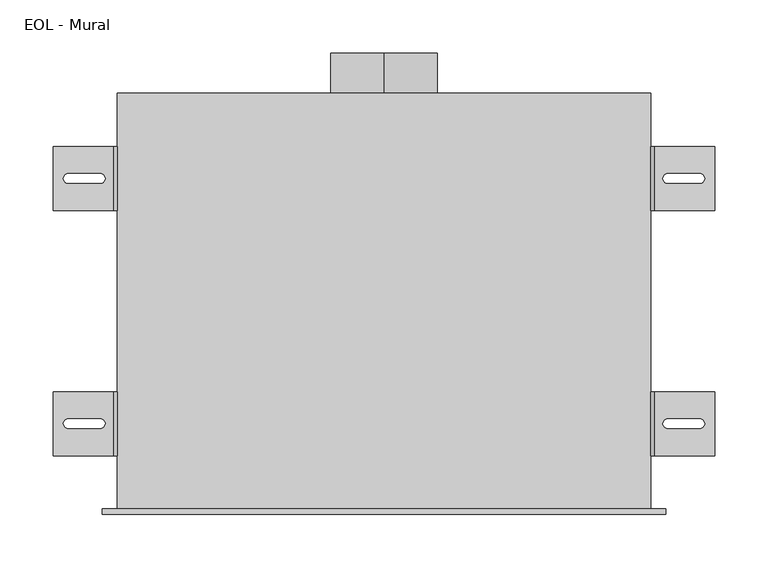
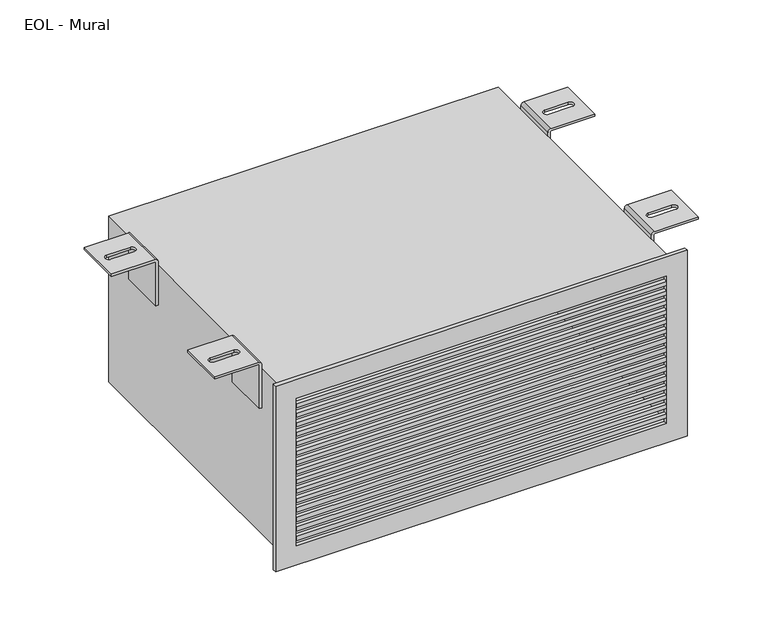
"""IFC4 building model written with IfcOpenShell, lengths in millimetres: air terminal geometry, EOL - Mural : EOL-M100-500x225-2."""

from ifc_helpers import new_model, si_unit, point, frame, origin, origin_2d, place, context, project, spatial, polyline, circle_curve, ellipse_curve, trimmed, segment, composite_curve, outline, extrude, source, transform, mapped, element, save
from ifc_brep_helpers import plane_surface, cylinder_surface, revolved_surface, extruded_surface, advanced_brep


def eol_mural_c0a6acfa(model_context):
    return source(origin(), model_context, "Body", "SolidModel", [
        advanced_brep(
        [(254.0013366, 110.0, 121.5), (310.0, 110.0, 121.5), (310.0, 110.0, 118.5), (254.0, 110.0, 118.5), (253.0, 110.0, 117.5), (253.0, 110.0, 58.5), (250.0, 110.0, 58.5), (250.0, 110.0, 117.4986634), (254.0013366, 50.0, 121.5), (250.0, 50.0, 117.4986634), (250.0, 50.0, 58.5), (253.0, 50.0, 58.5), (253.0, 50.0, 117.5), (254.0, 50.0, 118.5), (310.0, 50.0, 118.5), (310.0, 50.0, 121.5), (296.0287952, 75.4804328, 121.5), (266.0287952, 75.4804328, 121.5), (266.0287952, 84.4804328, 121.5), (296.0287952, 84.4804328, 121.5), (266.0287952, 75.4804328, 118.5), (296.0287952, 75.4804328, 118.5), (296.0287952, 84.4804328, 118.5), (266.0287952, 84.4804328, 118.5)],
        [
            (0, 1),
            (1, 2),
            (2, 3),
            (3, 4, circle_curve(frame((254.0, 110.0, 117.5), z_axis=(0.0, -1.0, 0.0), x_axis=(-1.0000000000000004, 0.0, 0.0)), 1.0)),
            (4, 5),
            (5, 6),
            (6, 7),
            (7, 0, circle_curve(frame((254.0013366, 110.0, 117.4986634), z_axis=(0.0, 1.0, 0.0), x_axis=(-1.0000000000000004, 0.0, 0.0)), 4.0013366)),
            (8, 9, circle_curve(frame((254.0013366, 50.0, 117.4986634), z_axis=(0.0, -1.0, 0.0), x_axis=(-1.0000000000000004, 0.0, 0.0)), 4.0013366)),
            (9, 10),
            (10, 11),
            (11, 12),
            (12, 13, circle_curve(frame((254.0, 50.0, 117.5), z_axis=(0.0, 1.0, 0.0), x_axis=(-1.0000000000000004, 0.0, 0.0)), 1.0)),
            (13, 14),
            (14, 15),
            (15, 8),
            (0, 8),
            (15, 1),
            (16, 17),
            (17, 18, circle_curve(frame((266.0287952, 79.9804328, 121.5), z_axis=(0.0, 0.0, -1.0), x_axis=(0.0, -1.0, 0.0)), 4.5)),
            (18, 19),
            (19, 16, circle_curve(frame((296.0287952, 79.9804328, 121.5), z_axis=(0.0, 0.0, -1.0), x_axis=(0.0, -1.0, 0.0)), 4.5)),
            (14, 2),
            (13, 3),
            (20, 21),
            (21, 22, ellipse_curve(frame((296.0287952, 79.9804328, 118.5), z_axis=(0.0, 0.0, 1.0), x_axis=(0.0, -1.0, 0.0)), 4.5, 4.5)),
            (22, 23),
            (23, 20, ellipse_curve(frame((266.0287952, 79.9804328, 118.5), z_axis=(0.0, 0.0, 1.0), x_axis=(0.0, -1.0, 0.0)), 4.5, 4.5)),
            (12, 4),
            (11, 5),
            (10, 6),
            (9, 7),
            (16, 21),
            (20, 17),
            (19, 22),
            (18, 23),
        ],
        [
            plane_surface(frame((310.0, 110.0, 121.5), z_axis=(0.0, 1.0, 0.0), x_axis=(1.0, 0.0, 0.0))),
            plane_surface(frame((310.0, 50.0, 121.5), z_axis=(0.0, -1.0, 0.0), x_axis=(-1.0, 0.0, 0.0))),
            plane_surface(frame((254.0013366, 110.0, 121.5), z_axis=(0.0, 0.0, 1.0), x_axis=(0.0, -1.0, 0.0))),
            plane_surface(frame((310.0, 110.0, 121.5), z_axis=(1.0, 0.0, 0.0), x_axis=(0.0, -1.0, 0.0))),
            plane_surface(frame((310.0, 110.0, 118.5), z_axis=(0.0, 0.0, -1.0), x_axis=(0.0, -1.0, 0.0))),
            revolved_surface(polyline([(253.0, 50.0, 117.5), (253.0, 110.00000000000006, 117.5)]), (254.0, 50.0, 117.5), (0.0, -1.0000000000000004, 0.0)),
            plane_surface(frame((253.0, 110.0, 117.5), z_axis=(1.0, 0.0, 0.0), x_axis=(0.0, -1.0, 0.0))),
            plane_surface(frame((253.0, 110.0, 58.5), z_axis=(0.0, 0.0, -1.0), x_axis=(0.0, -1.0, 0.0))),
            plane_surface(frame((250.0, 110.0, 58.5), z_axis=(-1.0, 0.0, 0.0), x_axis=(0.0, -1.0, 0.0))),
            cylinder_surface(frame((254.0013366, 50.0, 117.4986634), z_axis=(0.0, 1.0000000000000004, 0.0), x_axis=(-1.0000000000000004, 0.0, 0.0)), 4.0013366),
            plane_surface(frame((266.0287952, 75.4804328, 121.5), z_axis=(0.0, 1.0, 0.0), x_axis=(0.0, 0.0, -1.0))),
            extruded_surface(trimmed(ellipse_curve(frame((296.0287952, 79.9804328, 118.5), z_axis=(0.0, 0.0, 1.0), x_axis=(0.0, -1.0, 0.0)), 4.5, 4.5), [point((296.0287952, 75.4804328, 118.5))], [point((296.0287952, 84.4804328, 118.5))], True, "CARTESIAN"), (0.0, 0.0, -3.0), 3.0),
            plane_surface(frame((296.0287952, 84.4804328, 121.5), z_axis=(0.0, -1.0, 0.0), x_axis=(0.0, 0.0, -1.0))),
            extruded_surface(trimmed(ellipse_curve(frame((266.0287952, 79.9804328, 118.5), z_axis=(0.0, 0.0, 1.0), x_axis=(0.0, -1.0, 0.0)), 4.5, 4.5), [point((266.0287952, 84.4804328, 118.5))], [point((266.0287952, 75.4804328, 118.5))], True, "CARTESIAN"), (0.0, 0.0, -3.0), 3.0),
        ],
        [
            (0, [[1, 2, 3, 4, 5, 6, 7, 8]]),
            (1, [[9, 10, 11, 12, 13, 14, 15, 16]]),
            (2, [[-1, 17, -16, 18], [19, 20, 21, 22]]),
            (3, [[-2, -18, -15, 23]]),
            (4, [[-3, -23, -14, 24], [25, 26, 27, 28]]),
            (5, [[-4, -24, -13, 29]]),
            (6, [[-5, -29, -12, 30]]),
            (7, [[-6, -30, -11, 31]]),
            (8, [[-7, -31, -10, 32]]),
            (9, [[-8, -32, -9, -17]]),
            (10, [[33, -25, 34, -19]]),
            (11, [[-33, -22, 35, -26]]),
            (12, [[-35, -21, 36, -27]]),
            (13, [[-34, -28, -36, -20]]),
        ],
    ),
        advanced_brep(
        [(254.0013366, 340.0, 121.5), (310.0, 340.0, 121.5), (310.0, 340.0, 118.5), (254.0, 340.0, 118.5), (253.0, 340.0, 117.5), (253.0, 340.0, 58.5), (250.0, 340.0, 58.5), (250.0, 340.0, 117.4986634), (254.0013366, 280.0, 121.5), (250.0, 280.0, 117.4986634), (250.0, 280.0, 58.5), (253.0, 280.0, 58.5), (253.0, 280.0, 117.5), (254.0, 280.0, 118.5), (310.0, 280.0, 118.5), (310.0, 280.0, 121.5), (296.0287952, 305.4804328, 121.5), (266.0287952, 305.4804328, 121.5), (266.0287952, 314.4804328, 121.5), (296.0287952, 314.4804328, 121.5), (266.0287952, 305.4804328, 118.5), (296.0287952, 305.4804328, 118.5), (296.0287952, 314.4804328, 118.5), (266.0287952, 314.4804328, 118.5)],
        [
            (0, 1),
            (1, 2),
            (2, 3),
            (3, 4, circle_curve(frame((254.0, 340.0, 117.5), z_axis=(0.0, -1.0, 0.0), x_axis=(-1.0, 0.0, 0.0)), 1.0)),
            (4, 5),
            (5, 6),
            (6, 7),
            (7, 0, circle_curve(frame((254.0013366, 340.0, 117.4986634), z_axis=(0.0, 1.0, 0.0), x_axis=(-1.0, 0.0, 0.0)), 4.0013366)),
            (8, 9, circle_curve(frame((254.0013366, 280.0, 117.4986634), z_axis=(0.0, -1.0, 0.0), x_axis=(-1.0, 0.0, 0.0)), 4.0013366)),
            (9, 10),
            (10, 11),
            (11, 12),
            (12, 13, circle_curve(frame((254.0, 280.0, 117.5), z_axis=(0.0, 1.0, 0.0), x_axis=(-1.0, 0.0, 0.0)), 1.0)),
            (13, 14),
            (14, 15),
            (15, 8),
            (0, 8),
            (15, 1),
            (16, 17),
            (17, 18, circle_curve(frame((266.0287952, 309.9804328, 121.5), z_axis=(0.0, 0.0, -1.0), x_axis=(0.0, -1.0, 0.0)), 4.5)),
            (18, 19),
            (19, 16, circle_curve(frame((296.0287952, 309.9804328, 121.5), z_axis=(0.0, 0.0, -1.0), x_axis=(0.0, -1.0, 0.0)), 4.5)),
            (14, 2),
            (13, 3),
            (20, 21),
            (21, 22, ellipse_curve(frame((296.0287952, 309.9804328, 118.5), z_axis=(0.0, 0.0, 1.0), x_axis=(0.0, -1.0, 0.0)), 4.5, 4.5)),
            (22, 23),
            (23, 20, ellipse_curve(frame((266.0287952, 309.9804328, 118.5), z_axis=(0.0, 0.0, 1.0), x_axis=(0.0, -1.0, 0.0)), 4.5, 4.5)),
            (12, 4),
            (11, 5),
            (10, 6),
            (9, 7),
            (16, 21),
            (20, 17),
            (19, 22),
            (18, 23),
        ],
        [
            plane_surface(frame((310.0, 340.0, 121.5), z_axis=(0.0, 1.0, 0.0), x_axis=(1.0, 0.0, 0.0))),
            plane_surface(frame((310.0, 280.0, 121.5), z_axis=(0.0, -1.0, 0.0), x_axis=(-1.0, 0.0, 0.0))),
            plane_surface(frame((254.0013366, 340.0, 121.5), z_axis=(0.0, 0.0, 1.0), x_axis=(0.0, -1.0, 0.0))),
            plane_surface(frame((310.0, 340.0, 121.5), z_axis=(1.0, 0.0, 0.0), x_axis=(0.0, -1.0, 0.0))),
            plane_surface(frame((310.0, 340.0, 118.5), z_axis=(0.0, 0.0, -1.0), x_axis=(0.0, -1.0, 0.0))),
            revolved_surface(polyline([(253.0, 280.0, 117.5), (253.0, 340.0, 117.5)]), (254.0, 280.0, 117.5), (0.0, -1.0, 0.0)),
            plane_surface(frame((253.0, 340.0, 117.5), z_axis=(1.0, 0.0, 0.0), x_axis=(0.0, -1.0, 0.0))),
            plane_surface(frame((253.0, 340.0, 58.5), z_axis=(0.0, 0.0, -1.0), x_axis=(0.0, -1.0, 0.0))),
            plane_surface(frame((250.0, 340.0, 58.5), z_axis=(-1.0, 0.0, 0.0), x_axis=(0.0, -1.0, 0.0))),
            cylinder_surface(frame((254.0013366, 280.0, 117.4986634), z_axis=(0.0, 1.0, 0.0), x_axis=(-1.0, 0.0, 0.0)), 4.0013366),
            plane_surface(frame((266.0287952, 305.4804328, 121.5), z_axis=(0.0, 1.0, 0.0), x_axis=(0.0, 0.0, -1.0))),
            extruded_surface(trimmed(ellipse_curve(frame((296.0287952, 309.9804328, 118.5), z_axis=(0.0, 0.0, 1.0), x_axis=(0.0, -1.0, 0.0)), 4.5, 4.5), [point((296.0287952, 305.4804328, 118.5))], [point((296.0287952, 314.4804328, 118.5))], True, "CARTESIAN"), (0.0, 0.0, -3.0), 3.0),
            plane_surface(frame((296.0287952, 314.4804328, 121.5), z_axis=(0.0, -1.0, 0.0), x_axis=(0.0, 0.0, -1.0))),
            extruded_surface(trimmed(ellipse_curve(frame((266.0287952, 309.9804328, 118.5), z_axis=(0.0, 0.0, 1.0), x_axis=(0.0, -1.0, 0.0)), 4.5, 4.5), [point((266.0287952, 314.4804328, 118.5))], [point((266.0287952, 305.4804328, 118.5))], True, "CARTESIAN"), (0.0, 0.0, -3.0), 3.0),
        ],
        [
            (0, [[1, 2, 3, 4, 5, 6, 7, 8]]),
            (1, [[9, 10, 11, 12, 13, 14, 15, 16]]),
            (2, [[-1, 17, -16, 18], [19, 20, 21, 22]]),
            (3, [[-2, -18, -15, 23]]),
            (4, [[-3, -23, -14, 24], [25, 26, 27, 28]]),
            (5, [[-4, -24, -13, 29]]),
            (6, [[-5, -29, -12, 30]]),
            (7, [[-6, -30, -11, 31]]),
            (8, [[-7, -31, -10, 32]]),
            (9, [[-8, -32, -9, -17]]),
            (10, [[33, -25, 34, -19]]),
            (11, [[-33, -22, 35, -26]]),
            (12, [[-35, -21, 36, -27]]),
            (13, [[-34, -28, -36, -20]]),
        ],
    ),
        advanced_brep(
        [(-254.0013366, 50.0, 121.5), (-310.0, 50.0, 121.5), (-310.0, 50.0, 118.5), (-254.0, 50.0, 118.5), (-253.0, 50.0, 117.5), (-253.0, 50.0, 58.5), (-250.0, 50.0, 58.5), (-250.0, 50.0, 117.4986634), (-254.0013366, 110.0, 121.5), (-250.0, 110.0, 117.4986634), (-250.0, 110.0, 58.5), (-253.0, 110.0, 58.5), (-253.0, 110.0, 117.5), (-254.0, 110.0, 118.5), (-310.0, 110.0, 118.5), (-310.0, 110.0, 121.5), (-296.0287952, 84.5195672, 121.5), (-266.0287952, 84.5195672, 121.5), (-266.0287952, 75.5195672, 121.5), (-296.0287952, 75.5195672, 121.5), (-266.0287952, 84.5195672, 118.5), (-296.0287952, 84.5195672, 118.5), (-296.0287952, 75.5195672, 118.5), (-266.0287952, 75.5195672, 118.5)],
        [
            (0, 1),
            (1, 2),
            (2, 3),
            (3, 4, circle_curve(frame((-254.0, 50.0, 117.5), z_axis=(0.0, 1.0, 0.0), x_axis=(1.0, 0.0, 0.0)), 1.0)),
            (4, 5),
            (5, 6),
            (6, 7),
            (7, 0, circle_curve(frame((-254.0013366, 50.0, 117.4986634), z_axis=(0.0, -1.0, 0.0), x_axis=(1.0, 0.0, 0.0)), 4.0013366)),
            (8, 9, circle_curve(frame((-254.0013366, 110.0, 117.4986634), z_axis=(0.0, 1.0, 0.0), x_axis=(1.0, 0.0, 0.0)), 4.0013366)),
            (9, 10),
            (10, 11),
            (11, 12),
            (12, 13, circle_curve(frame((-254.0, 110.0, 117.5), z_axis=(0.0, -1.0, 0.0), x_axis=(1.0, 0.0, 0.0)), 1.0)),
            (13, 14),
            (14, 15),
            (15, 8),
            (0, 8),
            (15, 1),
            (16, 17),
            (17, 18, circle_curve(frame((-266.0287952, 80.0195672, 121.5), z_axis=(0.0, 0.0, -1.0), x_axis=(0.0, 1.0, 0.0)), 4.5)),
            (18, 19),
            (19, 16, circle_curve(frame((-296.0287952, 80.0195672, 121.5), z_axis=(0.0, 0.0, -1.0), x_axis=(0.0, 1.0, 0.0)), 4.5)),
            (14, 2),
            (13, 3),
            (20, 21),
            (21, 22, ellipse_curve(frame((-296.0287952, 80.0195672, 118.5), z_axis=(0.0, 0.0, 1.0), x_axis=(0.0, 1.0, 0.0)), 4.5, 4.5)),
            (22, 23),
            (23, 20, ellipse_curve(frame((-266.0287952, 80.0195672, 118.5), z_axis=(0.0, 0.0, 1.0), x_axis=(0.0, 1.0, 0.0)), 4.5, 4.5)),
            (12, 4),
            (11, 5),
            (10, 6),
            (9, 7),
            (16, 21),
            (20, 17),
            (19, 22),
            (18, 23),
        ],
        [
            plane_surface(frame((-310.0, 50.0, 121.5), z_axis=(0.0, -1.0, 0.0), x_axis=(-1.0, 0.0, 0.0))),
            plane_surface(frame((-310.0, 110.0, 121.5), z_axis=(0.0, 1.0, 0.0), x_axis=(1.0, 0.0, 0.0))),
            plane_surface(frame((-254.0013366, 50.0, 121.5), z_axis=(0.0, 0.0, 1.0), x_axis=(0.0, 1.0, 0.0))),
            plane_surface(frame((-310.0, 50.0, 121.5), z_axis=(-1.0, 0.0, 0.0), x_axis=(0.0, 1.0, 0.0))),
            plane_surface(frame((-310.0, 50.0, 118.5), z_axis=(0.0, 0.0, -1.0), x_axis=(0.0, 1.0, 0.0))),
            revolved_surface(polyline([(-253.0, 110.0, 117.5), (-253.0, 50.0, 117.5)]), (-254.0, 110.0, 117.5), (0.0, 1.0, 0.0)),
            plane_surface(frame((-253.0, 50.0, 117.5), z_axis=(-1.0, 0.0, 0.0), x_axis=(0.0, 1.0, 0.0))),
            plane_surface(frame((-253.0, 50.0, 58.5), z_axis=(0.0, 0.0, -1.0), x_axis=(0.0, 1.0, 0.0))),
            plane_surface(frame((-250.0, 50.0, 58.5), z_axis=(1.0, 0.0, 0.0), x_axis=(0.0, 1.0, 0.0))),
            cylinder_surface(frame((-254.0013366, 110.0, 117.4986634), z_axis=(0.0, -1.0, 0.0), x_axis=(1.0, 0.0, 0.0)), 4.0013366),
            plane_surface(frame((-266.0287952, 84.5195672, 121.5), z_axis=(0.0, -1.0, 0.0), x_axis=(0.0, 0.0, -1.0))),
            extruded_surface(trimmed(ellipse_curve(frame((-296.0287952, 80.0195672, 118.5), z_axis=(0.0, 0.0, 1.0), x_axis=(0.0, 1.0, 0.0)), 4.5, 4.5), [point((-296.0287952, 84.5195672, 118.5))], [point((-296.0287952, 75.5195672, 118.5))], True, "CARTESIAN"), (0.0, 0.0, -3.0), 3.0),
            plane_surface(frame((-296.0287952, 75.5195672, 121.5), z_axis=(0.0, 1.0, 0.0), x_axis=(0.0, 0.0, -1.0))),
            extruded_surface(trimmed(ellipse_curve(frame((-266.0287952, 80.0195672, 118.5), z_axis=(0.0, 0.0, 1.0), x_axis=(0.0, 1.0, 0.0)), 4.5, 4.5), [point((-266.0287952, 75.5195672, 118.5))], [point((-266.0287952, 84.5195672, 118.5))], True, "CARTESIAN"), (0.0, 0.0, -3.0), 3.0),
        ],
        [
            (0, [[1, 2, 3, 4, 5, 6, 7, 8]]),
            (1, [[9, 10, 11, 12, 13, 14, 15, 16]]),
            (2, [[-1, 17, -16, 18], [19, 20, 21, 22]]),
            (3, [[-2, -18, -15, 23]]),
            (4, [[-3, -23, -14, 24], [25, 26, 27, 28]]),
            (5, [[-4, -24, -13, 29]]),
            (6, [[-5, -29, -12, 30]]),
            (7, [[-6, -30, -11, 31]]),
            (8, [[-7, -31, -10, 32]]),
            (9, [[-8, -32, -9, -17]]),
            (10, [[33, -25, 34, -19]]),
            (11, [[-33, -22, 35, -26]]),
            (12, [[-35, -21, 36, -27]]),
            (13, [[-34, -28, -36, -20]]),
        ],
    ),
        advanced_brep(
        [(-254.0013366, 280.0, 121.5), (-310.0, 280.0, 121.5), (-310.0, 280.0, 118.5), (-254.0, 280.0, 118.5), (-253.0, 280.0, 117.5), (-253.0, 280.0, 58.5), (-250.0, 280.0, 58.5), (-250.0, 280.0, 117.4986634), (-254.0013366, 340.0, 121.5), (-250.0, 340.0, 117.4986634), (-250.0, 340.0, 58.5), (-253.0, 340.0, 58.5), (-253.0, 340.0, 117.5), (-254.0, 340.0, 118.5), (-310.0, 340.0, 118.5), (-310.0, 340.0, 121.5), (-296.0287952, 314.5195672, 121.5), (-266.0287952, 314.5195672, 121.5), (-266.0287952, 305.5195672, 121.5), (-296.0287952, 305.5195672, 121.5), (-266.0287952, 314.5195672, 118.5), (-296.0287952, 314.5195672, 118.5), (-296.0287952, 305.5195672, 118.5), (-266.0287952, 305.5195672, 118.5)],
        [
            (0, 1),
            (1, 2),
            (2, 3),
            (3, 4, circle_curve(frame((-254.0, 280.0, 117.5), z_axis=(0.0, 1.0, 0.0), x_axis=(1.0, 0.0, 0.0)), 1.0)),
            (4, 5),
            (5, 6),
            (6, 7),
            (7, 0, circle_curve(frame((-254.0013366, 280.0, 117.4986634), z_axis=(0.0, -1.0, 0.0), x_axis=(1.0, 0.0, 0.0)), 4.0013366)),
            (8, 9, circle_curve(frame((-254.0013366, 340.0, 117.4986634), z_axis=(0.0, 1.0, 0.0), x_axis=(1.0, 0.0, 0.0)), 4.0013366)),
            (9, 10),
            (10, 11),
            (11, 12),
            (12, 13, circle_curve(frame((-254.0, 340.0, 117.5), z_axis=(0.0, -1.0, 0.0), x_axis=(1.0, 0.0, 0.0)), 1.0)),
            (13, 14),
            (14, 15),
            (15, 8),
            (0, 8),
            (15, 1),
            (16, 17),
            (17, 18, circle_curve(frame((-266.0287952, 310.0195672, 121.5), z_axis=(0.0, 0.0, -1.0), x_axis=(0.0, 1.0, 0.0)), 4.5)),
            (18, 19),
            (19, 16, circle_curve(frame((-296.0287952, 310.0195672, 121.5), z_axis=(0.0, 0.0, -1.0), x_axis=(0.0, 1.0, 0.0)), 4.5)),
            (14, 2),
            (13, 3),
            (20, 21),
            (21, 22, ellipse_curve(frame((-296.0287952, 310.0195672, 118.5), z_axis=(0.0, 0.0, 1.0), x_axis=(0.0, 1.0, 0.0)), 4.5, 4.5)),
            (22, 23),
            (23, 20, ellipse_curve(frame((-266.0287952, 310.0195672, 118.5), z_axis=(0.0, 0.0, 1.0), x_axis=(0.0, 1.0, 0.0)), 4.5, 4.5)),
            (12, 4),
            (11, 5),
            (10, 6),
            (9, 7),
            (16, 21),
            (20, 17),
            (19, 22),
            (18, 23),
        ],
        [
            plane_surface(frame((-310.0, 280.0, 121.5), z_axis=(0.0, -1.0, 0.0), x_axis=(-1.0, 0.0, 0.0))),
            plane_surface(frame((-310.0, 340.0, 121.5), z_axis=(0.0, 1.0, 0.0), x_axis=(1.0, 0.0, 0.0))),
            plane_surface(frame((-254.0013366, 280.0, 121.5), z_axis=(0.0, 0.0, 1.0), x_axis=(0.0, 1.0, 0.0))),
            plane_surface(frame((-310.0, 280.0, 121.5), z_axis=(-1.0, 0.0, 0.0), x_axis=(0.0, 1.0, 0.0))),
            plane_surface(frame((-310.0, 280.0, 118.5), z_axis=(0.0, 0.0, -1.0), x_axis=(0.0, 1.0, 0.0))),
            revolved_surface(polyline([(-253.0, 340.0, 117.5), (-253.0, 280.0, 117.5)]), (-254.0, 340.0, 117.5), (0.0, 1.0, 0.0)),
            plane_surface(frame((-253.0, 280.0, 117.5), z_axis=(-1.0, 0.0, 0.0), x_axis=(0.0, 1.0, 0.0))),
            plane_surface(frame((-253.0, 280.0, 58.5), z_axis=(0.0, 0.0, -1.0), x_axis=(0.0, 1.0, 0.0))),
            plane_surface(frame((-250.0, 280.0, 58.5), z_axis=(1.0, 0.0, 0.0), x_axis=(0.0, 1.0, 0.0))),
            cylinder_surface(frame((-254.0013366, 340.0, 117.4986634), z_axis=(0.0, -1.0, 0.0), x_axis=(1.0, 0.0, 0.0)), 4.0013366),
            plane_surface(frame((-266.0287952, 314.5195672, 121.5), z_axis=(0.0, -1.0, 0.0), x_axis=(0.0, 0.0, -1.0))),
            extruded_surface(trimmed(ellipse_curve(frame((-296.0287952, 310.0195672, 118.5), z_axis=(0.0, 0.0, 1.0), x_axis=(0.0, 1.0, 0.0)), 4.5, 4.5), [point((-296.0287952, 314.5195672, 118.5))], [point((-296.0287952, 305.5195672, 118.5))], True, "CARTESIAN"), (0.0, 0.0, -3.0), 3.0),
            plane_surface(frame((-296.0287952, 305.5195672, 121.5), z_axis=(0.0, 1.0, 0.0), x_axis=(0.0, 0.0, -1.0))),
            extruded_surface(trimmed(ellipse_curve(frame((-266.0287952, 310.0195672, 118.5), z_axis=(0.0, 0.0, 1.0), x_axis=(0.0, 1.0, 0.0)), 4.5, 4.5), [point((-266.0287952, 305.5195672, 118.5))], [point((-266.0287952, 314.5195672, 118.5))], True, "CARTESIAN"), (0.0, 0.0, -3.0), 3.0),
        ],
        [
            (0, [[1, 2, 3, 4, 5, 6, 7, 8]]),
            (1, [[9, 10, 11, 12, 13, 14, 15, 16]]),
            (2, [[-1, 17, -16, 18], [19, 20, 21, 22]]),
            (3, [[-2, -18, -15, 23]]),
            (4, [[-3, -23, -14, 24], [25, 26, 27, 28]]),
            (5, [[-4, -24, -13, 29]]),
            (6, [[-5, -29, -12, 30]]),
            (7, [[-6, -30, -11, 31]]),
            (8, [[-7, -31, -10, 32]]),
            (9, [[-8, -32, -9, -17]]),
            (10, [[33, -25, 34, -19]]),
            (11, [[-33, -22, 35, -26]]),
            (12, [[-35, -21, 36, -27]]),
            (13, [[-34, -28, -36, -20]]),
        ],
    ),
        extrude(outline(composite_curve([segment(trimmed(circle_curve(origin_2d(), 50.0), [point((-50.0, 0.0))], [point((50.0, 0.0))], False, "CARTESIAN"), True, "CONTINUOUS"), segment(trimmed(circle_curve(origin_2d(), 50.0), [point((50.0, 0.0))], [point((-50.0, 0.0))], False, "CARTESIAN"), True, "CONTINUOUS")], self_intersect=False), holes=[composite_curve([segment(trimmed(circle_curve(origin_2d(), 49.0), [point((0.0, 49.0))], [point((0.0, -49.0))], True, "CARTESIAN"), True, "CONTINUOUS"), segment(trimmed(circle_curve(origin_2d(), 49.0), [point((0.0, -49.0))], [point((0.0, 49.0))], True, "CARTESIAN"), True, "CONTINUOUS")], self_intersect=False)]), frame((0.0, 390.0, 0.0), z_axis=(0.0, 1.0, 0.0), x_axis=(0.0, 0.0, 1.0)), (0.0, 0.0, 1.0), 37.5),
        extrude(outline(polyline([(237.5, 0.0), (237.5, -5.0), (-237.5, -5.0), (-237.5, 0.0), (237.5, 0.0)])), frame((0.0, 0.0, 87.15), z_axis=(0.0, 0.0, 1.0), x_axis=(1.0, 0.0, 0.0)), (0.0, 0.0, 1.0), 5.6),
        extrude(outline(polyline([(237.5, 0.0), (237.5, -5.0), (-237.5, -5.0), (-237.5, 0.0), (237.5, 0.0)])), frame((0.0, 0.0, 74.3), z_axis=(0.0, 0.0, 1.0), x_axis=(1.0, 0.0, 0.0)), (0.0, 0.0, 1.0), 5.6),
        extrude(outline(polyline([(237.5, 0.0), (237.5, -5.0), (-237.5, -5.0), (-237.5, 0.0), (237.5, 0.0)])), frame((0.0, 0.0, 61.45), z_axis=(0.0, 0.0, 1.0), x_axis=(1.0, 0.0, 0.0)), (0.0, 0.0, 1.0), 5.6),
        extrude(outline(polyline([(237.5, 0.0), (237.5, -5.0), (-237.5, -5.0), (-237.5, 0.0), (237.5, 0.0)])), frame((0.0, 0.0, 48.6), z_axis=(0.0, 0.0, 1.0), x_axis=(1.0, 0.0, 0.0)), (0.0, 0.0, 1.0), 5.6),
        extrude(outline(polyline([(237.5, 0.0), (237.5, -5.0), (-237.5, -5.0), (-237.5, 0.0), (237.5, 0.0)])), frame((0.0, 0.0, 35.75), z_axis=(0.0, 0.0, 1.0), x_axis=(1.0, 0.0, 0.0)), (0.0, 0.0, 1.0), 5.6),
        extrude(outline(polyline([(237.5, 0.0), (237.5, -5.0), (-237.5, -5.0), (-237.5, 0.0), (237.5, 0.0)])), frame((0.0, 0.0, 22.9), z_axis=(0.0, 0.0, 1.0), x_axis=(1.0, 0.0, 0.0)), (0.0, 0.0, 1.0), 5.6),
        extrude(outline(polyline([(237.5, 0.0), (237.5, -5.0), (-237.5, -5.0), (-237.5, 0.0), (237.5, 0.0)])), frame((0.0, 0.0, 10.05), z_axis=(0.0, 0.0, 1.0), x_axis=(1.0, 0.0, 0.0)), (0.0, 0.0, 1.0), 5.6),
        extrude(outline(polyline([(237.5, 0.0), (237.5, -5.0), (-237.5, -5.0), (-237.5, 0.0), (237.5, 0.0)])), frame((0.0, 0.0, -2.8), z_axis=(0.0, 0.0, 1.0), x_axis=(1.0, 0.0, 0.0)), (0.0, 0.0, 1.0), 5.6),
        extrude(outline(polyline([(237.5, 0.0), (237.5, -5.0), (-237.5, -5.0), (-237.5, 0.0), (237.5, 0.0)])), frame((0.0, 0.0, -15.65), z_axis=(0.0, 0.0, 1.0), x_axis=(1.0, 0.0, 0.0)), (0.0, 0.0, 1.0), 5.6),
        extrude(outline(polyline([(237.5, 0.0), (237.5, -5.0), (-237.5, -5.0), (-237.5, 0.0), (237.5, 0.0)])), frame((0.0, 0.0, -28.5), z_axis=(0.0, 0.0, 1.0), x_axis=(1.0, 0.0, 0.0)), (0.0, 0.0, 1.0), 5.6),
        extrude(outline(polyline([(237.5, 0.0), (237.5, -5.0), (-237.5, -5.0), (-237.5, 0.0), (237.5, 0.0)])), frame((0.0, 0.0, -41.35), z_axis=(0.0, 0.0, 1.0), x_axis=(1.0, 0.0, 0.0)), (0.0, 0.0, 1.0), 5.6),
        extrude(outline(polyline([(237.5, 0.0), (237.5, -5.0), (-237.5, -5.0), (-237.5, 0.0), (237.5, 0.0)])), frame((0.0, 0.0, -54.2), z_axis=(0.0, 0.0, 1.0), x_axis=(1.0, 0.0, 0.0)), (0.0, 0.0, 1.0), 5.6),
        extrude(outline(polyline([(237.5, 0.0), (237.5, -5.0), (-237.5, -5.0), (-237.5, 0.0), (237.5, 0.0)])), frame((0.0, 0.0, -67.05), z_axis=(0.0, 0.0, 1.0), x_axis=(1.0, 0.0, 0.0)), (0.0, 0.0, 1.0), 5.6),
        extrude(outline(polyline([(237.5, 0.0), (237.5, -5.0), (-237.5, -5.0), (-237.5, 0.0), (237.5, 0.0)])), frame((0.0, 0.0, -79.9), z_axis=(0.0, 0.0, 1.0), x_axis=(1.0, 0.0, 0.0)), (0.0, 0.0, 1.0), 5.6),
        extrude(outline(polyline([(237.5, 0.0), (237.5, -5.0), (-237.5, -5.0), (-237.5, 0.0), (237.5, 0.0)])), frame((0.0, 0.0, -92.75), z_axis=(0.0, 0.0, 1.0), x_axis=(1.0, 0.0, 0.0)), (0.0, 0.0, 1.0), 5.6),
        extrude(outline(polyline([(126.0, 264.0), (126.0, -264.0), (-126.0, -264.0), (-126.0, 264.0), (126.0, 264.0)]), holes=[polyline([(100.0, 237.5), (-100.0, 237.5), (-100.0, -237.5), (100.0, -237.5), (100.0, 237.5)])]), frame((0.0, -5.0, 0.0), z_axis=(0.0, 1.0, 0.0), x_axis=(0.0, 0.0, 1.0)), (0.0, 0.0, 1.0), 5.0),
        advanced_brep(
        [(250.0, 390.0, 112.5), (-250.0, 390.0, 112.5), (-250.0, 0.0, 112.5), (250.0, 0.0, 112.5), (250.0, 390.0, -112.5), (250.0, 0.0, -112.5), (-250.0, 0.0, -112.5), (-250.0, 390.0, -112.5), (-49.0, 390.0, 0.0), (49.0, 390.0, 0.0), (-245.0, 0.0, 107.5), (245.0, 0.0, 107.5), (245.0, 0.0, -107.5), (-245.0, 0.0, -107.5), (245.0, 385.0, 107.5), (-245.0, 385.0, 107.5), (245.0, 385.0, -107.5), (-245.0, 385.0, -107.5), (49.0, 385.0, 0.0), (-49.0, 385.0, 0.0)],
        [
            (0, 1),
            (1, 2),
            (2, 3),
            (3, 0),
            (4, 5),
            (5, 6),
            (6, 7),
            (7, 4),
            (0, 4),
            (7, 1),
            (8, 9, circle_curve(frame((0.0, 390.0, 0.0), z_axis=(0.0, -1.0, 0.0), x_axis=(1.0, 0.0, 0.0)), 49.0)),
            (9, 8, circle_curve(frame((0.0, 390.0, 0.0), z_axis=(0.0, -1.0, 0.0), x_axis=(1.0, 0.0, 0.0)), 49.0)),
            (6, 2),
            (5, 3),
            (10, 11),
            (11, 12),
            (12, 13),
            (13, 10),
            (14, 11),
            (10, 15),
            (15, 14),
            (16, 17),
            (17, 13),
            (12, 16),
            (15, 17),
            (16, 14),
            (18, 19, circle_curve(frame((0.0, 385.0, 0.0), z_axis=(0.0, 1.0, 0.0), x_axis=(1.0, 0.0, 0.0)), 49.0)),
            (19, 18, circle_curve(frame((0.0, 385.0, 0.0), z_axis=(0.0, 1.0, 0.0), x_axis=(1.0, 0.0, 0.0)), 49.0)),
            (8, 19),
            (18, 9),
        ],
        [
            plane_surface(frame((-250.0, 390.0, 112.5), z_axis=(0.0, 0.0, 1.0), x_axis=(-1.0, 0.0, 0.0))),
            plane_surface(frame((-250.0, 390.0, -112.5), z_axis=(0.0, 0.0, -1.0), x_axis=(1.0, 0.0, 0.0))),
            plane_surface(frame((250.0, 390.0, 112.5), z_axis=(0.0, 1.0, 0.0), x_axis=(0.0, 0.0, -1.0))),
            plane_surface(frame((-250.0, 390.0, 112.5), z_axis=(-1.0, 0.0, 0.0), x_axis=(0.0, 0.0, -1.0))),
            plane_surface(frame((-250.0, 0.0, 112.5), z_axis=(0.0, -1.0, 0.0), x_axis=(0.0, 0.0, -1.0))),
            plane_surface(frame((250.0, 0.0, 112.5), z_axis=(1.0, 0.0, 0.0), x_axis=(0.0, 0.0, -1.0))),
            plane_surface(frame((-245.0, 385.0, 107.5), z_axis=(0.0, 0.0, -1.0), x_axis=(-1.0, 0.0, 0.0))),
            plane_surface(frame((-245.0, 385.0, -107.5), z_axis=(0.0, 0.0, 1.0), x_axis=(1.0, 0.0, 0.0))),
            plane_surface(frame((245.0, 385.0, 107.5), z_axis=(0.0, -1.0, 0.0), x_axis=(0.0, 0.0, -1.0))),
            plane_surface(frame((-245.0, 385.0, 107.5), z_axis=(1.0, 0.0, 0.0), x_axis=(0.0, 0.0, -1.0))),
            plane_surface(frame((245.0, 0.0, 107.5), z_axis=(-1.0, 0.0, 0.0), x_axis=(0.0, 0.0, -1.0))),
            revolved_surface(polyline([(49.0, 385.0, 0.0), (49.0, 390.0, 0.0)]), (0.0, 427.5, 0.0), (0.0, -1.0, 0.0)),
        ],
        [
            (0, [[1, 2, 3, 4]]),
            (1, [[5, 6, 7, 8]]),
            (2, [[-1, 9, -8, 10], [11, 12]]),
            (3, [[-2, -10, -7, 13]]),
            (4, [[-3, -13, -6, 14], [15, 16, 17, 18]]),
            (5, [[-4, -14, -5, -9]]),
            (6, [[19, -15, 20, 21]]),
            (7, [[22, 23, -17, 24]]),
            (8, [[-21, 25, -22, 26], [27, 28]]),
            (9, [[-20, -18, -23, -25]]),
            (10, [[-19, -26, -24, -16]]),
            (11, [[29, -27, 30, -11]]),
            (11, [[-29, -12, -30, -28]]),
        ],
    ),
    ])


if __name__ == "__main__":
    model = new_model("IFC4")
    model_context = context("Model", 3, world=origin())
    ifc_project = project(units=[si_unit("LENGTHUNIT", "METRE", prefix="MILLI")], contexts=[model_context])
    site = spatial("IfcSite", under=ifc_project)
    building = spatial("IfcBuilding", under=site)
    placement = place(None, origin())
    eol_mural_shape = eol_mural_c0a6acfa(model_context)
    element("IfcAirTerminal", 1, ObjectType="EOL - Mural : EOL-M100-500x225-2", at=placement, inside=building, context=model_context, shape_type="MappedRepresentation", body=[
        mapped(eol_mural_shape, transform((0.0, 0.0, 0.0), x_axis=(1.0, 0.0, 0.0), y_axis=(0.0, 1.0, 0.0), z_axis=(0.0, 0.0, 1.0))),
    ])
    save(model, "model.ifc")
